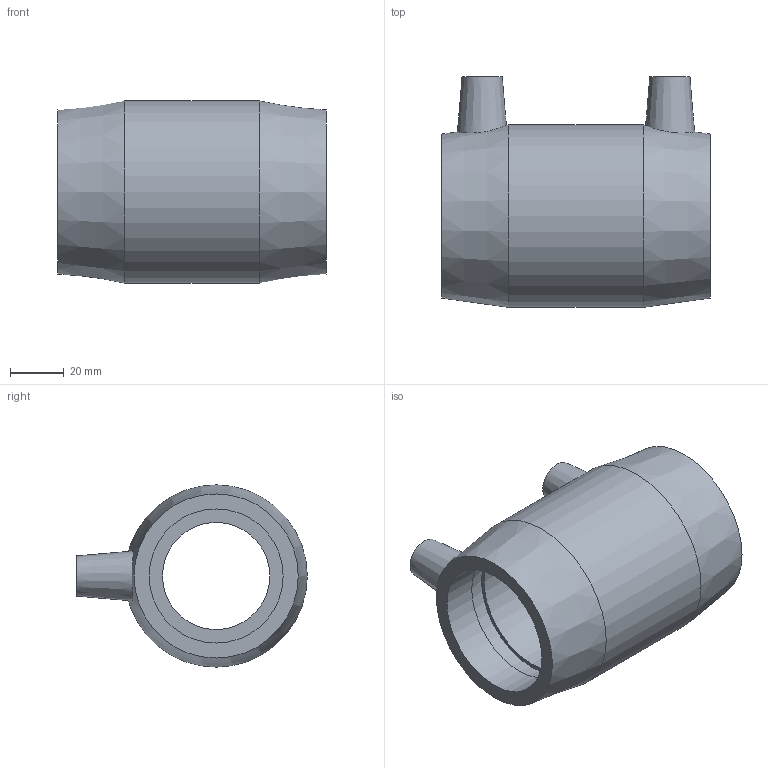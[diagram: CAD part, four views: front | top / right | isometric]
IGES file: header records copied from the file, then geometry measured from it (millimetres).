
Global section: file name: 450104050.ipt; native system: Autodesk Inventor 2015; preprocessor: unknown; author: KIM; date: 20171106.093347; units: millimetre
Bounding box: 100 x 86 x 68 mm (x, y, z)
Volume: 155992.5 mm3; surface area: 43568.9 mm2
Topology: 1 solids, 1 shells, 28 faces, 64 edges, 46 vertices
Faces by surface type: plane 12, revolution 9, cone 4, cylinder 3
Full cylindrical faces by diameter (mm): 4 x2, 68 x1
